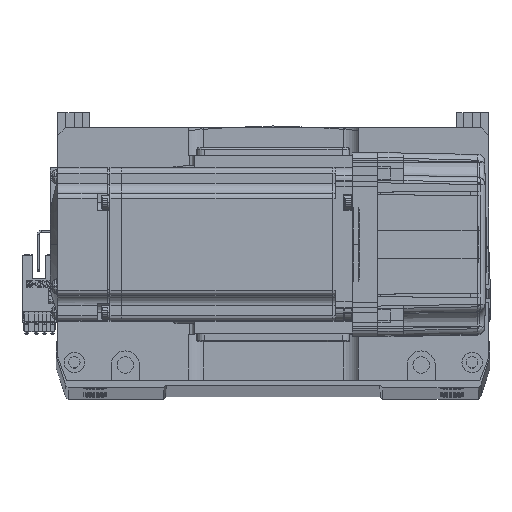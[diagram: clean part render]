
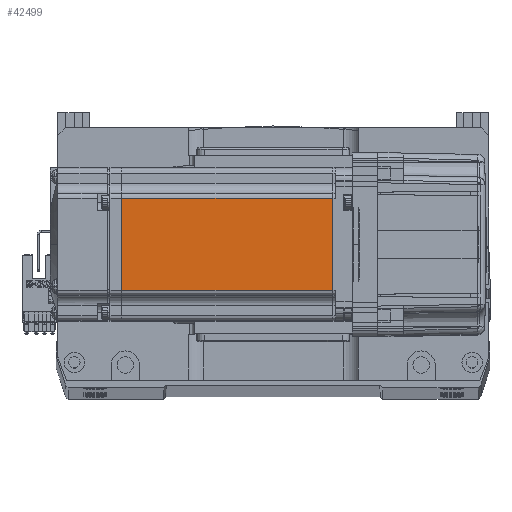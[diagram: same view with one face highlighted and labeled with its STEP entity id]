
A CAD part, top view. The second image highlights one B-rep face of the part: STEP entity #42499.
In plain terms, the highlighted planar face has unit normal (0, 0, 1).
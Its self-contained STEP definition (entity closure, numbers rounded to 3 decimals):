
#368 = VECTOR ( 'NONE', #28510, 1000. ) ;
#2158 = VERTEX_POINT ( 'NONE', #18103 ) ;
#3361 = DIRECTION ( 'NONE',  ( -1., 0., 0. ) ) ;
#6546 = DIRECTION ( 'NONE',  ( 1., 0., 0. ) ) ;
#7528 = CARTESIAN_POINT ( 'NONE',  ( -6.5, -18., 30. ) ) ;
#8844 = VECTOR ( 'NONE', #19055, 1000. ) ;
#14656 = ORIENTED_EDGE ( 'NONE', *, *, #55457, .F. ) ;
#16321 = CARTESIAN_POINT ( 'NONE',  ( -7.75, 18., 30. ) ) ;
#17279 = VERTEX_POINT ( 'NONE', #47823 ) ;
#17374 = DIRECTION ( 'NONE',  ( -1., 0., 0. ) ) ;
#18103 = CARTESIAN_POINT ( 'NONE',  ( -90.45, 18., 30. ) ) ;
#19055 = DIRECTION ( 'NONE',  ( 0., -1., 0. ) ) ;
#19889 = ORIENTED_EDGE ( 'NONE', *, *, #36773, .T. ) ;
#22228 = LINE ( 'NONE', #39663, #8844 ) ;
#24126 = FACE_OUTER_BOUND ( 'NONE', #45929, .T. ) ;
#27933 = VECTOR ( 'NONE', #3361, 1000. ) ;
#28111 = AXIS2_PLACEMENT_3D ( 'NONE', #32983, #38612, #6546 ) ;
#28510 = DIRECTION ( 'NONE',  ( 0., -1., 0. ) ) ;
#32739 = PLANE ( 'NONE',  #28111 ) ;
#32983 = CARTESIAN_POINT ( 'NONE',  ( -6.5, -25., 30. ) ) ;
#33929 = CARTESIAN_POINT ( 'NONE',  ( -90.45, 0., 30. ) ) ;
#34630 = EDGE_CURVE ( 'NONE', #2158, #17279, #64773, .T. ) ;
#36773 = EDGE_CURVE ( 'NONE', #51833, #2158, #39635, .T. ) ;
#38612 = DIRECTION ( 'NONE',  ( 0., 0., 1. ) ) ;
#39635 = LINE ( 'NONE', #46606, #27933 ) ;
#39663 = CARTESIAN_POINT ( 'NONE',  ( -7.75, 0., 30. ) ) ;
#42499 = ADVANCED_FACE ( 'NONE', ( #24126 ), #32739, .T. ) ;
#44077 = ORIENTED_EDGE ( 'NONE', *, *, #34630, .T. ) ;
#45929 = EDGE_LOOP ( 'NONE', ( #14656, #19889, #44077, #61659 ) ) ;
#46606 = CARTESIAN_POINT ( 'NONE',  ( -6.5, 18., 30. ) ) ;
#47739 = EDGE_CURVE ( 'NONE', #62591, #17279, #53170, .T. ) ;
#47823 = CARTESIAN_POINT ( 'NONE',  ( -90.45, -18., 30. ) ) ;
#47880 = CARTESIAN_POINT ( 'NONE',  ( -7.75, -18., 30. ) ) ;
#51833 = VERTEX_POINT ( 'NONE', #16321 ) ;
#53170 = LINE ( 'NONE', #7528, #61544 ) ;
#55457 = EDGE_CURVE ( 'NONE', #51833, #62591, #22228, .T. ) ;
#61544 = VECTOR ( 'NONE', #17374, 1000. ) ;
#61659 = ORIENTED_EDGE ( 'NONE', *, *, #47739, .F. ) ;
#62591 = VERTEX_POINT ( 'NONE', #47880 ) ;
#64773 = LINE ( 'NONE', #33929, #368 ) ;
